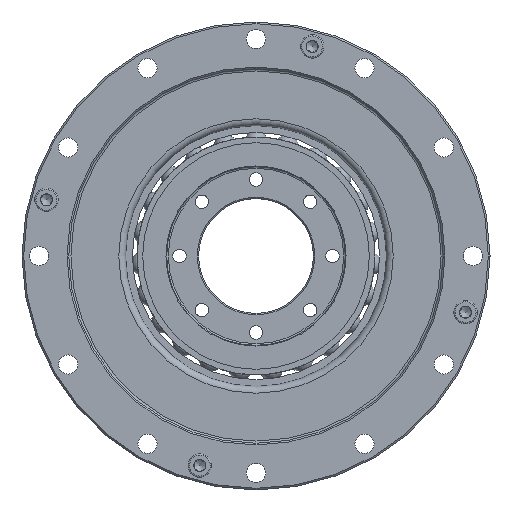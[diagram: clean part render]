
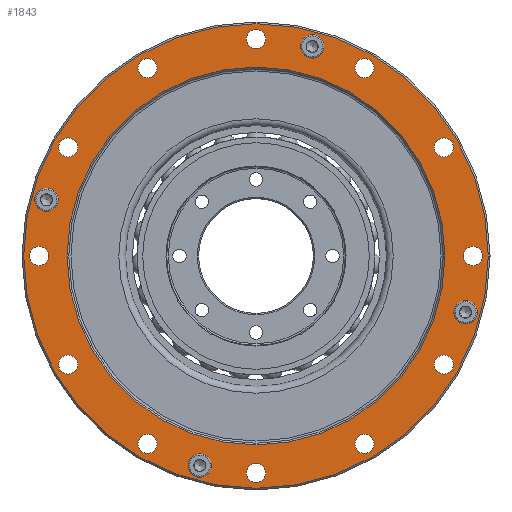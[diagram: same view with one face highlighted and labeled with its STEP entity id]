
A CAD part, left-side view. The second image highlights one B-rep face of the part: STEP entity #1843.
In plain terms, the highlighted planar face has unit normal (-1, 0, 0).
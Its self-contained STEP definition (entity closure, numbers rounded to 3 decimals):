
#1657=PLANE('',#9566);
#1843=ADVANCED_FACE('',(#2658,#2659,#2660,#2661,#2662,#2663,#2664,#2665,
#2666,#2667,#2668,#2669,#2670,#2671,#2672,#2673,#2674,#2675),#1657,.T.);
#2658=FACE_BOUND('',#3445,.T.);
#2659=FACE_BOUND('',#3446,.T.);
#2660=FACE_BOUND('',#3447,.T.);
#2661=FACE_BOUND('',#3448,.T.);
#2662=FACE_BOUND('',#3449,.T.);
#2663=FACE_BOUND('',#3450,.T.);
#2664=FACE_BOUND('',#3451,.T.);
#2665=FACE_BOUND('',#3452,.T.);
#2666=FACE_BOUND('',#3453,.T.);
#2667=FACE_BOUND('',#3454,.T.);
#2668=FACE_BOUND('',#3455,.T.);
#2669=FACE_BOUND('',#3456,.T.);
#2670=FACE_BOUND('',#3457,.T.);
#2671=FACE_BOUND('',#3458,.T.);
#2672=FACE_BOUND('',#3459,.T.);
#2673=FACE_BOUND('',#3460,.T.);
#2674=FACE_BOUND('',#3461,.T.);
#2675=FACE_BOUND('',#3462,.T.);
#3445=EDGE_LOOP('',(#4455));
#3446=EDGE_LOOP('',(#4456));
#3447=EDGE_LOOP('',(#4457));
#3448=EDGE_LOOP('',(#4458));
#3449=EDGE_LOOP('',(#4459));
#3450=EDGE_LOOP('',(#4460));
#3451=EDGE_LOOP('',(#4461));
#3452=EDGE_LOOP('',(#4462));
#3453=EDGE_LOOP('',(#4463));
#3454=EDGE_LOOP('',(#4464));
#3455=EDGE_LOOP('',(#4465));
#3456=EDGE_LOOP('',(#4466));
#3457=EDGE_LOOP('',(#4467));
#3458=EDGE_LOOP('',(#4468));
#3459=EDGE_LOOP('',(#4469));
#3460=EDGE_LOOP('',(#4470));
#3461=EDGE_LOOP('',(#4471));
#3462=EDGE_LOOP('',(#4472));
#4455=ORIENTED_EDGE('',*,*,#7563,.F.);
#4456=ORIENTED_EDGE('',*,*,#7564,.F.);
#4457=ORIENTED_EDGE('',*,*,#7565,.F.);
#4458=ORIENTED_EDGE('',*,*,#7566,.F.);
#4459=ORIENTED_EDGE('',*,*,#7567,.F.);
#4460=ORIENTED_EDGE('',*,*,#7568,.F.);
#4461=ORIENTED_EDGE('',*,*,#7569,.F.);
#4462=ORIENTED_EDGE('',*,*,#7570,.F.);
#4463=ORIENTED_EDGE('',*,*,#7571,.F.);
#4464=ORIENTED_EDGE('',*,*,#7572,.F.);
#4465=ORIENTED_EDGE('',*,*,#7573,.F.);
#4466=ORIENTED_EDGE('',*,*,#7574,.F.);
#4467=ORIENTED_EDGE('',*,*,#7575,.F.);
#4468=ORIENTED_EDGE('',*,*,#7576,.F.);
#4469=ORIENTED_EDGE('',*,*,#7577,.F.);
#4470=ORIENTED_EDGE('',*,*,#7578,.F.);
#4471=ORIENTED_EDGE('',*,*,#7579,.T.);
#4472=ORIENTED_EDGE('',*,*,#7580,.T.);
#6671=VERTEX_POINT('',#13474);
#6672=VERTEX_POINT('',#13476);
#6673=VERTEX_POINT('',#13478);
#6674=VERTEX_POINT('',#13480);
#6675=VERTEX_POINT('',#13482);
#6676=VERTEX_POINT('',#13484);
#6677=VERTEX_POINT('',#13486);
#6678=VERTEX_POINT('',#13488);
#6679=VERTEX_POINT('',#13490);
#6680=VERTEX_POINT('',#13492);
#6681=VERTEX_POINT('',#13494);
#6682=VERTEX_POINT('',#13496);
#6683=VERTEX_POINT('',#13498);
#6684=VERTEX_POINT('',#13500);
#6685=VERTEX_POINT('',#13502);
#6686=VERTEX_POINT('',#13504);
#6687=VERTEX_POINT('',#13506);
#6688=VERTEX_POINT('',#13508);
#7563=EDGE_CURVE('',#6671,#6671,#8767,.T.);
#7564=EDGE_CURVE('',#6672,#6672,#8768,.T.);
#7565=EDGE_CURVE('',#6673,#6673,#8769,.T.);
#7566=EDGE_CURVE('',#6674,#6674,#8770,.T.);
#7567=EDGE_CURVE('',#6675,#6675,#8771,.T.);
#7568=EDGE_CURVE('',#6676,#6676,#8772,.T.);
#7569=EDGE_CURVE('',#6677,#6677,#8773,.T.);
#7570=EDGE_CURVE('',#6678,#6678,#8774,.T.);
#7571=EDGE_CURVE('',#6679,#6679,#8775,.T.);
#7572=EDGE_CURVE('',#6680,#6680,#8776,.T.);
#7573=EDGE_CURVE('',#6681,#6681,#8777,.T.);
#7574=EDGE_CURVE('',#6682,#6682,#8778,.T.);
#7575=EDGE_CURVE('',#6683,#6683,#8779,.T.);
#7576=EDGE_CURVE('',#6684,#6684,#8780,.T.);
#7577=EDGE_CURVE('',#6685,#6685,#8781,.T.);
#7578=EDGE_CURVE('',#6686,#6686,#8782,.T.);
#7579=EDGE_CURVE('',#6687,#6687,#8783,.T.);
#7580=EDGE_CURVE('',#6688,#6688,#8784,.T.);
#8767=CIRCLE('',#9548,1.75);
#8768=CIRCLE('',#9549,1.75);
#8769=CIRCLE('',#9550,1.75);
#8770=CIRCLE('',#9551,1.75);
#8771=CIRCLE('',#9552,2.25);
#8772=CIRCLE('',#9553,2.25);
#8773=CIRCLE('',#9554,2.25);
#8774=CIRCLE('',#9555,2.25);
#8775=CIRCLE('',#9556,2.25);
#8776=CIRCLE('',#9557,2.25);
#8777=CIRCLE('',#9558,2.25);
#8778=CIRCLE('',#9559,2.25);
#8779=CIRCLE('',#9560,2.25);
#8780=CIRCLE('',#9561,2.25);
#8781=CIRCLE('',#9562,2.25);
#8782=CIRCLE('',#9563,2.25);
#8783=CIRCLE('',#9564,44.4);
#8784=CIRCLE('',#9565,54.6);
#9548=AXIS2_PLACEMENT_3D('',#13473,#10835,#10836);
#9549=AXIS2_PLACEMENT_3D('',#13475,#10837,#10838);
#9550=AXIS2_PLACEMENT_3D('',#13477,#10839,#10840);
#9551=AXIS2_PLACEMENT_3D('',#13479,#10841,#10842);
#9552=AXIS2_PLACEMENT_3D('',#13481,#10843,#10844);
#9553=AXIS2_PLACEMENT_3D('',#13483,#10845,#10846);
#9554=AXIS2_PLACEMENT_3D('',#13485,#10847,#10848);
#9555=AXIS2_PLACEMENT_3D('',#13487,#10849,#10850);
#9556=AXIS2_PLACEMENT_3D('',#13489,#10851,#10852);
#9557=AXIS2_PLACEMENT_3D('',#13491,#10853,#10854);
#9558=AXIS2_PLACEMENT_3D('',#13493,#10855,#10856);
#9559=AXIS2_PLACEMENT_3D('',#13495,#10857,#10858);
#9560=AXIS2_PLACEMENT_3D('',#13497,#10859,#10860);
#9561=AXIS2_PLACEMENT_3D('',#13499,#10861,#10862);
#9562=AXIS2_PLACEMENT_3D('',#13501,#10863,#10864);
#9563=AXIS2_PLACEMENT_3D('',#13503,#10865,#10866);
#9564=AXIS2_PLACEMENT_3D('',#13505,#10867,#10868);
#9565=AXIS2_PLACEMENT_3D('',#13507,#10869,#10870);
#9566=AXIS2_PLACEMENT_3D('',#13509,#10871,#10872);
#10835=DIRECTION('',(-1.,0.,0.));
#10836=DIRECTION('',(0.,0.5,0.866));
#10837=DIRECTION('',(-1.,0.,0.));
#10838=DIRECTION('',(0.,0.5,0.866));
#10839=DIRECTION('',(-1.,0.,0.));
#10840=DIRECTION('',(0.,0.5,0.866));
#10841=DIRECTION('',(-1.,0.,0.));
#10842=DIRECTION('',(0.,0.5,0.866));
#10843=DIRECTION('',(-1.,0.,0.));
#10844=DIRECTION('',(0.,0.5,0.866));
#10845=DIRECTION('',(-1.,0.,0.));
#10846=DIRECTION('',(0.,0.5,0.866));
#10847=DIRECTION('',(-1.,0.,0.));
#10848=DIRECTION('',(0.,0.5,0.866));
#10849=DIRECTION('',(-1.,0.,0.));
#10850=DIRECTION('',(0.,0.5,0.866));
#10851=DIRECTION('',(-1.,0.,0.));
#10852=DIRECTION('',(0.,0.5,0.866));
#10853=DIRECTION('',(-1.,0.,0.));
#10854=DIRECTION('',(0.,0.5,0.866));
#10855=DIRECTION('',(-1.,0.,0.));
#10856=DIRECTION('',(0.,0.5,0.866));
#10857=DIRECTION('',(-1.,0.,0.));
#10858=DIRECTION('',(0.,0.5,0.866));
#10859=DIRECTION('',(-1.,0.,0.));
#10860=DIRECTION('',(0.,0.5,0.866));
#10861=DIRECTION('',(-1.,0.,0.));
#10862=DIRECTION('',(0.,0.5,0.866));
#10863=DIRECTION('',(-1.,0.,0.));
#10864=DIRECTION('',(0.,0.5,0.866));
#10865=DIRECTION('',(-1.,0.,0.));
#10866=DIRECTION('',(0.,0.5,0.866));
#10867=DIRECTION('',(1.,0.,0.));
#10868=DIRECTION('',(0.,0.5,0.866));
#10869=DIRECTION('',(-1.,0.,0.));
#10870=DIRECTION('',(0.,0.5,0.866));
#10871=DIRECTION('',(-1.,0.,0.));
#10872=DIRECTION('',(0.,0.5,0.866));
#13473=CARTESIAN_POINT('',(-34.,13.2,-49.262));
#13474=CARTESIAN_POINT('',(-34.,14.075,-47.747));
#13475=CARTESIAN_POINT('',(-34.,-49.262,-13.2));
#13476=CARTESIAN_POINT('',(-34.,-48.387,-11.684));
#13477=CARTESIAN_POINT('',(-34.,-13.2,49.262));
#13478=CARTESIAN_POINT('',(-34.,-12.325,50.778));
#13479=CARTESIAN_POINT('',(-34.,49.262,13.2));
#13480=CARTESIAN_POINT('',(-34.,50.137,14.715));
#13481=CARTESIAN_POINT('',(-34.,25.5,-44.167));
#13482=CARTESIAN_POINT('',(-34.,26.625,-42.219));
#13483=CARTESIAN_POINT('',(-34.,0.,-51.));
#13484=CARTESIAN_POINT('',(-34.,1.125,-49.051));
#13485=CARTESIAN_POINT('',(-34.,-25.5,-44.167));
#13486=CARTESIAN_POINT('',(-34.,-24.375,-42.219));
#13487=CARTESIAN_POINT('',(-34.,-44.167,-25.5));
#13488=CARTESIAN_POINT('',(-34.,-43.042,-23.551));
#13489=CARTESIAN_POINT('',(-34.,-51.,0.));
#13490=CARTESIAN_POINT('',(-34.,-49.875,1.949));
#13491=CARTESIAN_POINT('',(-34.,-44.167,25.5));
#13492=CARTESIAN_POINT('',(-34.,-43.042,27.449));
#13493=CARTESIAN_POINT('',(-34.,-25.5,44.167));
#13494=CARTESIAN_POINT('',(-34.,-24.375,46.116));
#13495=CARTESIAN_POINT('',(-34.,0.,51.));
#13496=CARTESIAN_POINT('',(-34.,1.125,52.949));
#13497=CARTESIAN_POINT('',(-34.,25.5,44.167));
#13498=CARTESIAN_POINT('',(-34.,26.625,46.116));
#13499=CARTESIAN_POINT('',(-34.,44.167,25.5));
#13500=CARTESIAN_POINT('',(-34.,45.292,27.449));
#13501=CARTESIAN_POINT('',(-34.,51.,0.));
#13502=CARTESIAN_POINT('',(-34.,52.125,1.949));
#13503=CARTESIAN_POINT('',(-34.,44.167,-25.5));
#13504=CARTESIAN_POINT('',(-34.,45.292,-23.551));
#13505=CARTESIAN_POINT('',(-34.,0.,0.));
#13506=CARTESIAN_POINT('',(-34.,22.2,38.452));
#13507=CARTESIAN_POINT('',(-34.,0.,0.));
#13508=CARTESIAN_POINT('',(-34.,27.3,47.285));
#13509=CARTESIAN_POINT('',(-34.,38.105,-22.));
